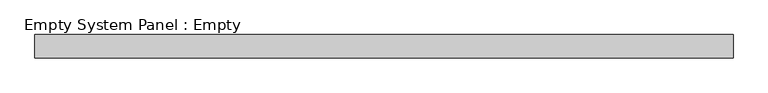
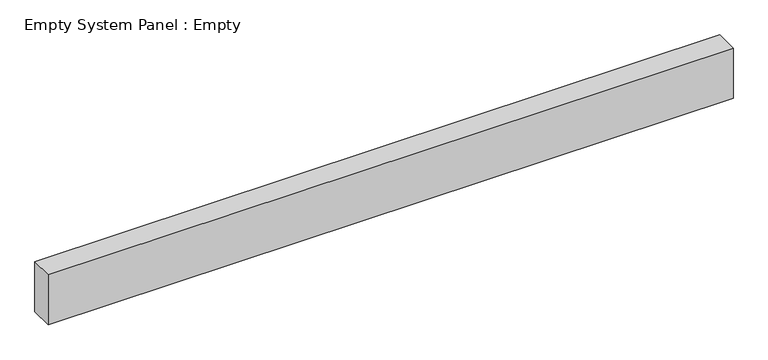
"""IFC4 building model written with IfcOpenShell, lengths in millimetres: plate geometry, Empty System Panel : Empty."""

from ifc_helpers import new_model, si_unit, origin, origin_with_axes, place, context, project, spatial, polyline, outline, extrude, source, transform, mapped, element, save


def empty_system_panel_empty_0ca92e57(model_context):
    return source(origin(), model_context, "Body", "SweptSolid", [
        extrude(outline(polyline([(1500.0, -50.0), (-1500.0, -50.0), (-1500.0, 50.0), (1500.0, 50.0), (1500.0, -50.0)])), origin_with_axes(), (0.0, 0.0, 1.0), 231.5),
    ])


if __name__ == "__main__":
    model = new_model("IFC4")
    model_context = context("Model", 3, world=origin())
    ifc_project = project(units=[si_unit("LENGTHUNIT", "METRE", prefix="MILLI")], contexts=[model_context])
    site = spatial("IfcSite", under=ifc_project)
    building = spatial("IfcBuilding", under=site)
    placement = place(None, origin())
    empty_system_panel_empty_shape = empty_system_panel_empty_0ca92e57(model_context)
    element("IfcPlate", 1, ObjectType="Empty System Panel : Empty", at=placement, inside=building, context=model_context, shape_type="MappedRepresentation", body=[
        mapped(empty_system_panel_empty_shape, transform((0.0, 0.0, 0.0), x_axis=(1.0, 0.0, 0.0), y_axis=(0.0, 1.0, 0.0), z_axis=(0.0, 0.0, 1.0))),
    ])
    save(model, "model.ifc")
